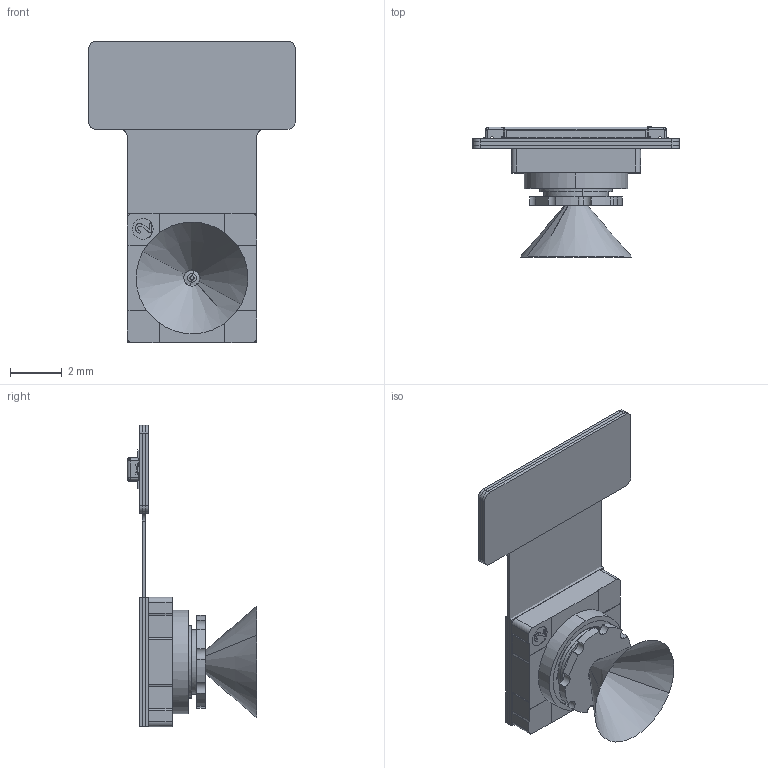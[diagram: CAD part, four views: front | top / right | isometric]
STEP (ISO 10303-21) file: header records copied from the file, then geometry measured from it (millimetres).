
FILE_DESCRIPTION(('CATIA V5 STEP Exchange'),'2;1');
FILE_NAME('C:\Users\Administrator\Desktop\ZS1430-A-081-940nm(3D) 250409.stp','2025-04-09T03:22:49+00:00',('none'),('none'),'CATIA Version 5 Release 21 GA (IN-10)','CATIA V5 STEP AP214','none');
FILE_SCHEMA(('AUTOMOTIVE_DESIGN { 1 0 10303 214 1 1 1 1 }'));
Length unit declared in the file: millimetre
Products named in the file (16): Assy_Root; ^_ZS1398-A-079-940nm(2)_ZS1398-A-079-940nm; ZS1398-A-079-940nm(3D)(1); 复件 (2) ^ZS1398-A-079-940nm(2)_ZS1398-A-079-940nm; 1398____.step.STEP^ZS1398-A-079-940nm(2)_ZS1398-A-079-940nm_1; ^ZS1398-A-079-940nm(2)_ZS1398-A-079-940nm_2; ^ZS1398-A-079-940nm(2)_ZS1398-A-079-940nm; 零件8^_ZS1398-A-079-940nm(2)_ZS1398-A-079-940nm; 零件17^_ZS1398-A-079-940nm(2)_ZS1398-A-079-940nm_1; ^_ZS1398-A-079-940nm(2)_ZS1398-A-079-940nm_1; 1398____.step.STEP^ZS1398-A-079-940nm(2)_ZS1398-A-079-940nm; ^ZS1398-A-079-940nm(2)_ZS1398-A-079-940nm_1; 复件 (2) ^ZS1398-A-079-940nm(2)_ZS1398-A-079-940nm_1; 零件8^_ZS1398-A-079-940nm(2)_ZS1398-A-079-940nm_1; 零件17^_ZS1398-A-079-940nm(2)_ZS1398-A-079-940nm; ANGLE
Assembly tree (15 placements, depth 4):
  Assy_Root
    ^_ZS1398-A-079-940nm(2)_ZS1398-A-079-940nm
    ZS1398-A-079-940nm(3D)(1)
      复件 (2) ^ZS1398-A-079-940nm(2)_ZS1398-A-079-940nm
      1398____.step.STEP^ZS1398-A-079-940nm(2)_ZS1398-A-079-940nm_1
      ^ZS1398-A-079-940nm(2)_ZS1398-A-079-940nm_2
      ^ZS1398-A-079-940nm(2)_ZS1398-A-079-940nm
        零件8^_ZS1398-A-079-940nm(2)_ZS1398-A-079-940nm
        零件17^_ZS1398-A-079-940nm(2)_ZS1398-A-079-940nm_1
        ^_ZS1398-A-079-940nm(2)_ZS1398-A-079-940nm_1
    1398____.step.STEP^ZS1398-A-079-940nm(2)_ZS1398-A-079-940nm
    ^ZS1398-A-079-940nm(2)_ZS1398-A-079-940nm_1
    复件 (2) ^ZS1398-A-079-940nm(2)_ZS1398-A-079-940nm_1
    零件8^_ZS1398-A-079-940nm(2)_ZS1398-A-079-940nm_1
    零件17^_ZS1398-A-079-940nm(2)_ZS1398-A-079-940nm
    ANGLE
Bounding box: 8 x 5.02 x 11.65 mm (x, y, z)
Volume: 50.1 mm3; surface area: 434.6 mm2
Topology: 6 solids, 7 shells, 684 faces, 1771 edges, 1109 vertices
Faces by surface type: plane 369, cylinder 169, bspline 104, cone 42
Entity records: 28969 total; most frequent: CARTESIAN_POINT 8745, ORIENTED_EDGE 3524, DIRECTION 2534, EDGE_CURVE 1763, VECTOR 1125, LINE 1125, VERTEX_POINT 1108, AXIS2_PLACEMENT_3D 800
